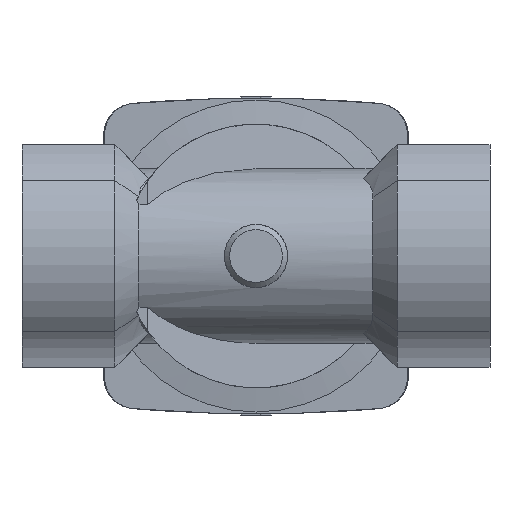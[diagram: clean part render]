
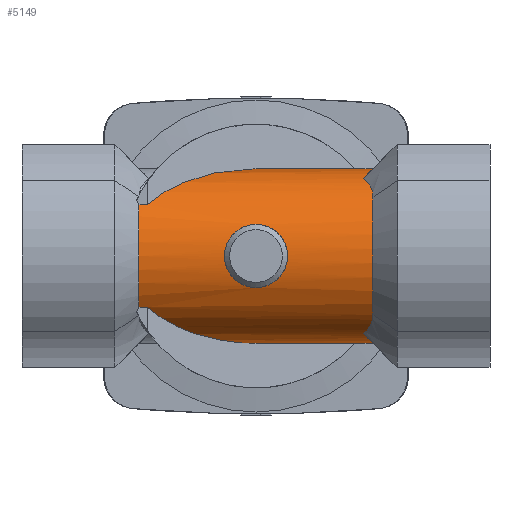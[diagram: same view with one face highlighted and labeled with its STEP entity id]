
A CAD part, front view. The second image highlights one B-rep face of the part: STEP entity #5149.
In plain terms, the highlighted cylindrical face has radius 23.5 mm (diameter 47 mm), a partial arc.
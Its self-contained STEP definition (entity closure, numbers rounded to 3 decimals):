
#246=B_SPLINE_CURVE_WITH_KNOTS('',3,(#8339,#8340,#8341,#8342,#8343),
 .UNSPECIFIED.,.F.,.F.,(4,1,4),(0.003,0.007,
0.012),.UNSPECIFIED.);
#247=B_SPLINE_CURVE_WITH_KNOTS('',3,(#8347,#8348,#8349,#8350,#8351),
 .UNSPECIFIED.,.F.,.F.,(4,1,4),(0.001,0.005,
0.009),.UNSPECIFIED.);
#248=B_SPLINE_CURVE_WITH_KNOTS('',3,(#8360,#8361,#8362,#8363,#8364,#8365,
#8366,#8367,#8368,#8369,#8370,#8371,#8372,#8373,#8374,#8375,#8376,#8377,
#8378),.UNSPECIFIED.,.T.,.F.,(1,1,1,1,1,1,1,1,1,1,1,1,1,1,1,1,1,1,1,1,1,
1,1),(-0.01,-0.007,-0.003,0.,
0.003,0.007,0.01,0.013,
0.017,0.02,0.023,0.027,
0.03,0.034,0.037,0.04,
0.044,0.047,0.05,0.054,
0.057,0.06,0.064),.UNSPECIFIED.);
#303=ELLIPSE('',#6185,43.148,23.5);
#304=ELLIPSE('',#6186,33.234,23.5);
#305=ELLIPSE('',#6188,33.234,23.5);
#306=ELLIPSE('',#6189,43.148,23.5);
#347=LINE('',#8331,#823);
#348=LINE('',#8335,#824);
#349=LINE('',#8355,#825);
#350=LINE('',#8359,#826);
#823=VECTOR('',#6744,1000.);
#824=VECTOR('',#6747,1000.);
#825=VECTOR('',#6754,1000.);
#826=VECTOR('',#6757,1000.);
#1299=ORIENTED_EDGE('',*,*,#2853,.F.);
#1300=ORIENTED_EDGE('',*,*,#2854,.F.);
#1301=ORIENTED_EDGE('',*,*,#2855,.F.);
#1302=ORIENTED_EDGE('',*,*,#2856,.F.);
#1303=ORIENTED_EDGE('',*,*,#2857,.T.);
#1304=ORIENTED_EDGE('',*,*,#2858,.F.);
#1305=ORIENTED_EDGE('',*,*,#2859,.T.);
#1306=ORIENTED_EDGE('',*,*,#2860,.F.);
#1307=ORIENTED_EDGE('',*,*,#2861,.T.);
#1308=ORIENTED_EDGE('',*,*,#2862,.F.);
#1309=ORIENTED_EDGE('',*,*,#2863,.F.);
#1310=ORIENTED_EDGE('',*,*,#2864,.F.);
#1311=ORIENTED_EDGE('',*,*,#2865,.F.);
#2853=EDGE_CURVE('',#3630,#3631,#4147,.T.);
#2854=EDGE_CURVE('',#3632,#3630,#347,.T.);
#2855=EDGE_CURVE('',#3633,#3632,#303,.F.);
#2856=EDGE_CURVE('',#3634,#3633,#348,.T.);
#2857=EDGE_CURVE('',#3634,#3635,#304,.T.);
#2858=EDGE_CURVE('',#3636,#3635,#246,.T.);
#2859=EDGE_CURVE('',#3636,#3637,#4148,.F.);
#2860=EDGE_CURVE('',#3638,#3637,#247,.T.);
#2861=EDGE_CURVE('',#3638,#3639,#305,.T.);
#2862=EDGE_CURVE('',#3640,#3639,#349,.T.);
#2863=EDGE_CURVE('',#3641,#3640,#306,.F.);
#2864=EDGE_CURVE('',#3631,#3641,#350,.F.);
#2865=EDGE_CURVE('',#3642,#3642,#248,.T.);
#3630=VERTEX_POINT('',#8329);
#3631=VERTEX_POINT('',#8330);
#3632=VERTEX_POINT('',#8332);
#3633=VERTEX_POINT('',#8334);
#3634=VERTEX_POINT('',#8336);
#3635=VERTEX_POINT('',#8338);
#3636=VERTEX_POINT('',#8344);
#3637=VERTEX_POINT('',#8346);
#3638=VERTEX_POINT('',#8352);
#3639=VERTEX_POINT('',#8354);
#3640=VERTEX_POINT('',#8356);
#3641=VERTEX_POINT('',#8358);
#3642=VERTEX_POINT('',#8379);
#4147=CIRCLE('',#6184,23.5);
#4148=CIRCLE('',#6187,23.5);
#4347=EDGE_LOOP('',(#1299,#1300,#1301,#1302,#1303,#1304,#1305,#1306,#1307,
#1308,#1309,#1310));
#4348=EDGE_LOOP('',(#1311));
#4699=FACE_BOUND('',#4347,.T.);
#4700=FACE_BOUND('',#4348,.T.);
#5051=CYLINDRICAL_SURFACE('',#6183,23.5);
#5149=ADVANCED_FACE('',(#4699,#4700),#5051,.T.);
#6183=AXIS2_PLACEMENT_3D('',#8327,#6740,#6741);
#6184=AXIS2_PLACEMENT_3D('',#8328,#6742,#6743);
#6185=AXIS2_PLACEMENT_3D('',#8333,#6745,#6746);
#6186=AXIS2_PLACEMENT_3D('',#8337,#6748,#6749);
#6187=AXIS2_PLACEMENT_3D('',#8345,#6750,#6751);
#6188=AXIS2_PLACEMENT_3D('',#8353,#6752,#6753);
#6189=AXIS2_PLACEMENT_3D('',#8357,#6755,#6756);
#6740=DIRECTION('',(-1.,0.,0.));
#6741=DIRECTION('',(0.,0.,1.));
#6742=DIRECTION('',(-1.,0.,0.));
#6743=DIRECTION('',(0.,0.,1.));
#6744=DIRECTION('',(-1.,0.,0.));
#6745=DIRECTION('',(0.545,-0.839,0.));
#6746=DIRECTION('',(-0.839,-0.545,0.));
#6747=DIRECTION('',(-1.,0.,0.));
#6748=DIRECTION('',(-0.707,0.,-0.707));
#6749=DIRECTION('',(-0.707,0.,0.707));
#6750=DIRECTION('',(1.,0.,0.));
#6751=DIRECTION('',(0.,0.,-1.));
#6752=DIRECTION('',(-0.707,0.,0.707));
#6753=DIRECTION('',(-0.707,0.,-0.707));
#6754=DIRECTION('',(1.,0.,0.));
#6755=DIRECTION('',(0.545,-0.839,0.));
#6756=DIRECTION('',(-0.839,-0.545,0.));
#6757=DIRECTION('',(-1.,0.,0.));
#8327=CARTESIAN_POINT('',(40.75,0.,0.));
#8328=CARTESIAN_POINT('',(-31.5,0.,0.));
#8329=CARTESIAN_POINT('',(-31.5,-19.,-13.829));
#8330=CARTESIAN_POINT('',(-31.5,-19.,13.829));
#8331=CARTESIAN_POINT('',(40.75,-19.,-13.829));
#8332=CARTESIAN_POINT('',(-29.257,-19.,-13.829));
#8333=CARTESIAN_POINT('',(0.,0.,0.));
#8334=CARTESIAN_POINT('',(0.,0.,-23.5));
#8335=CARTESIAN_POINT('',(40.75,0.,-23.5));
#8336=CARTESIAN_POINT('',(31.5,0.,-23.5));
#8337=CARTESIAN_POINT('',(8.,0.,0.));
#8338=CARTESIAN_POINT('',(28.866,-10.811,-20.866));
#8339=CARTESIAN_POINT('',(31.5,-17.295,-15.91));
#8340=CARTESIAN_POINT('',(31.5,-16.311,-16.98));
#8341=CARTESIAN_POINT('',(30.942,-14.143,-18.921));
#8342=CARTESIAN_POINT('',(29.619,-11.917,-20.293));
#8343=CARTESIAN_POINT('',(28.866,-10.811,-20.866));
#8344=CARTESIAN_POINT('',(31.5,-17.295,-15.91));
#8345=CARTESIAN_POINT('',(31.5,0.,0.));
#8346=CARTESIAN_POINT('',(31.5,-17.295,15.91));
#8347=CARTESIAN_POINT('',(28.866,-10.811,20.866));
#8348=CARTESIAN_POINT('',(29.619,-11.917,20.293));
#8349=CARTESIAN_POINT('',(30.94,-14.141,18.922));
#8350=CARTESIAN_POINT('',(31.5,-16.308,16.983));
#8351=CARTESIAN_POINT('',(31.5,-17.295,15.91));
#8352=CARTESIAN_POINT('',(28.866,-10.811,20.866));
#8353=CARTESIAN_POINT('',(8.,0.,0.));
#8354=CARTESIAN_POINT('',(31.5,0.,23.5));
#8355=CARTESIAN_POINT('',(-40.75,0.,23.5));
#8356=CARTESIAN_POINT('',(0.,0.,23.5));
#8357=CARTESIAN_POINT('',(0.,0.,0.));
#8358=CARTESIAN_POINT('',(-29.257,-19.,13.829));
#8359=CARTESIAN_POINT('',(40.75,-19.,13.829));
#8360=CARTESIAN_POINT('',(-3.361,-22.092,-8.047));
#8361=CARTESIAN_POINT('',(-0.001,-21.817,-8.727));
#8362=CARTESIAN_POINT('',(3.366,-22.093,-8.046));
#8363=CARTESIAN_POINT('',(6.163,-22.722,-6.163));
#8364=CARTESIAN_POINT('',(8.045,-23.33,-3.365));
#8365=CARTESIAN_POINT('',(8.726,-23.585,-0.008));
#8366=CARTESIAN_POINT('',(8.049,-23.331,3.362));
#8367=CARTESIAN_POINT('',(6.159,-22.72,6.168));
#8368=CARTESIAN_POINT('',(3.361,-22.092,8.046));
#8369=CARTESIAN_POINT('',(0.004,-21.817,8.726));
#8370=CARTESIAN_POINT('',(-3.359,-22.092,8.049));
#8371=CARTESIAN_POINT('',(-6.163,-22.722,6.164));
#8372=CARTESIAN_POINT('',(-8.048,-23.331,3.36));
#8373=CARTESIAN_POINT('',(-8.726,-23.585,-0.001));
#8374=CARTESIAN_POINT('',(-8.046,-23.33,-3.365));
#8375=CARTESIAN_POINT('',(-6.16,-22.721,-6.166));
#8376=CARTESIAN_POINT('',(-3.361,-22.092,-8.047));
#8377=CARTESIAN_POINT('',(-0.001,-21.817,-8.727));
#8378=CARTESIAN_POINT('',(3.366,-22.093,-8.046));
#8379=CARTESIAN_POINT('',(0.,-21.909,-8.5));
